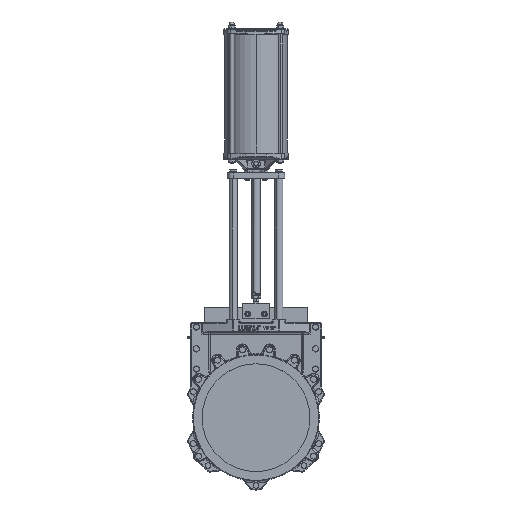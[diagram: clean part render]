
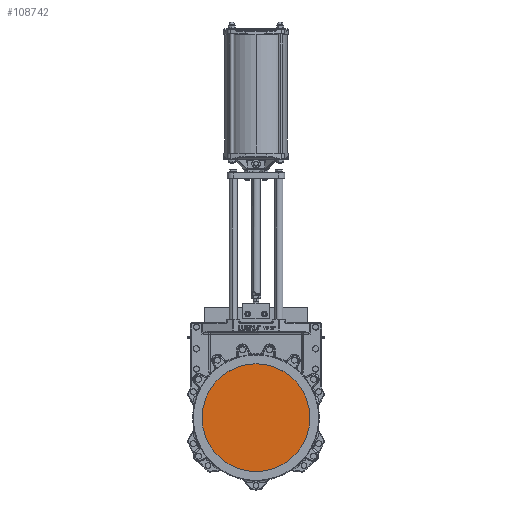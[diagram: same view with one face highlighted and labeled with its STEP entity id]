
A CAD part, top view. The second image highlights one B-rep face of the part: STEP entity #108742.
In plain terms, the highlighted planar face has unit normal (0, 0, 1).
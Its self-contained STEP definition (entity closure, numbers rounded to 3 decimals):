
#9339 = DIRECTION ( 'NONE',  ( -1., 0., 0. ) ) ;
#24511 = PLANE ( 'NONE',  #115931 ) ;
#30928 = DIRECTION ( 'NONE',  ( 0., 0., -1. ) ) ;
#32584 = ORIENTED_EDGE ( 'NONE', *, *, #63706, .F. ) ;
#61277 = EDGE_CURVE ( 'NONE', #193850, #119109, #183083, .T. ) ;
#63706 = EDGE_CURVE ( 'NONE', #119109, #193850, #158973, .T. ) ;
#82117 = CARTESIAN_POINT ( 'NONE',  ( 0., 0., -0.25 ) ) ;
#86098 = FACE_OUTER_BOUND ( 'NONE', #120659, .T. ) ;
#98056 = DIRECTION ( 'NONE',  ( 0., 1., 0. ) ) ;
#103834 = DIRECTION ( 'NONE',  ( 0., 0., -1. ) ) ;
#107189 = AXIS2_PLACEMENT_3D ( 'NONE', #82117, #192732, #98056 ) ;
#108742 = ADVANCED_FACE ( 'NONE', ( #86098 ), #24511, .F. ) ;
#115931 = AXIS2_PLACEMENT_3D ( 'NONE', #198517, #103834, #9339 ) ;
#119109 = VERTEX_POINT ( 'NONE', #124976 ) ;
#120659 = EDGE_LOOP ( 'NONE', ( #32584, #186600 ) ) ;
#124976 = CARTESIAN_POINT ( 'NONE',  ( 225., 0., -0.25 ) ) ;
#125536 = CARTESIAN_POINT ( 'NONE',  ( 0., 0., -0.25 ) ) ;
#141361 = DIRECTION ( 'NONE',  ( 0., 1., 0. ) ) ;
#143503 = AXIS2_PLACEMENT_3D ( 'NONE', #125536, #30928, #141361 ) ;
#158973 = CIRCLE ( 'NONE', #143503, 225. ) ;
#183083 = CIRCLE ( 'NONE', #107189, 225. ) ;
#186600 = ORIENTED_EDGE ( 'NONE', *, *, #61277, .F. ) ;
#189579 = CARTESIAN_POINT ( 'NONE',  ( -225., 0., -0.25 ) ) ;
#192732 = DIRECTION ( 'NONE',  ( 0., 0., -1. ) ) ;
#193850 = VERTEX_POINT ( 'NONE', #189579 ) ;
#198517 = CARTESIAN_POINT ( 'NONE',  ( 0., 120., -0.25 ) ) ;
